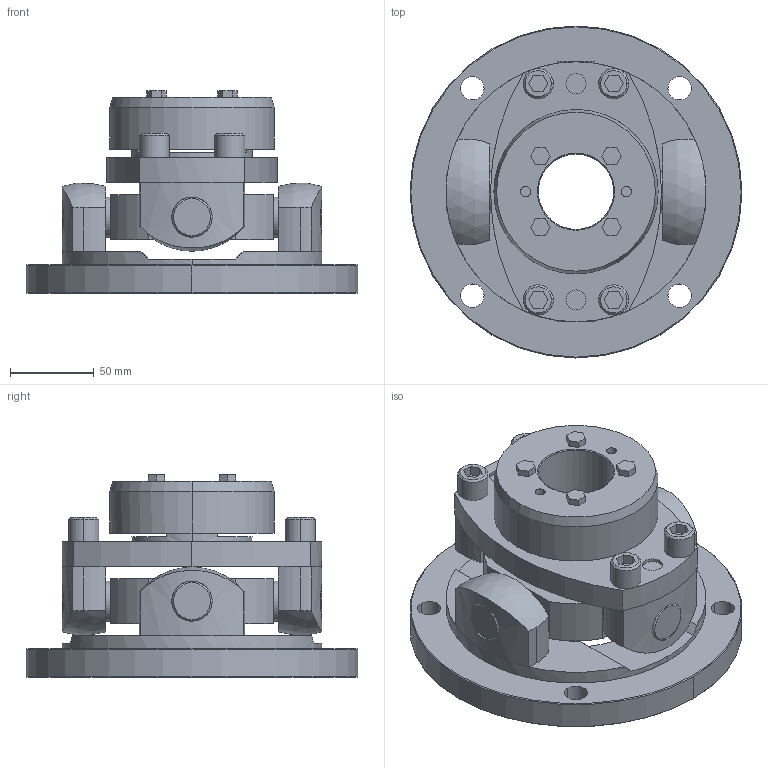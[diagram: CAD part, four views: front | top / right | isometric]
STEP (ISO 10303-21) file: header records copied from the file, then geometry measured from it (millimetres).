
FILE_DESCRIPTION((''),'2;1');
FILE_NAME('UCNF-155T7-45.stp','2011-09-27T13:05:57',(''),(''),'AutoCAD STEP 2000i','AutoCAD 2000i',', , ');
FILE_SCHEMA(('CONFIG_CONTROL_DESIGN'));
Length unit declared in the file: millimetre
Products named in the file (6): UCNF-155T7-45; 忣兜1; UCNF-15502; UCN155T7-T045-1; UCN155T7-T045; UCN155-SEN
Assembly tree (5 placements, depth 2):
  UCNF-155T7-45
    忣兜1
    UCNF-15502
    UCN155T7-T045-1
    UCN155T7-T045
    UCN155-SEN
Bounding box: 198 x 198 x 121 mm (x, y, z)
Volume: 1189267.8 mm3; surface area: 184352.4 mm2
Topology: 1 solids, 1 shells, 282 faces, 695 edges, 453 vertices
Faces by surface type: plane 132, cylinder 108, cone 38, sphere 4
Entity records: 8975 total; most frequent: CARTESIAN_POINT 1840, DIRECTION 1542, ORIENTED_EDGE 1390, EDGE_CURVE 695, AXIS2_PLACEMENT_3D 575, VERTEX_POINT 453, VECTOR 392, LINE 392
